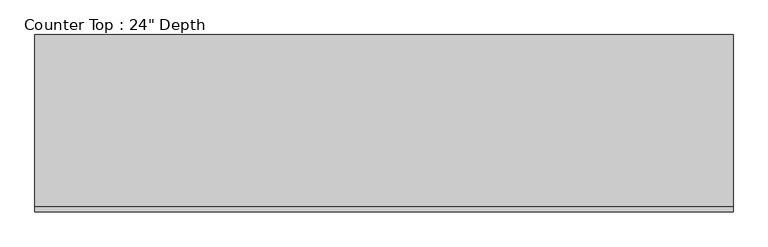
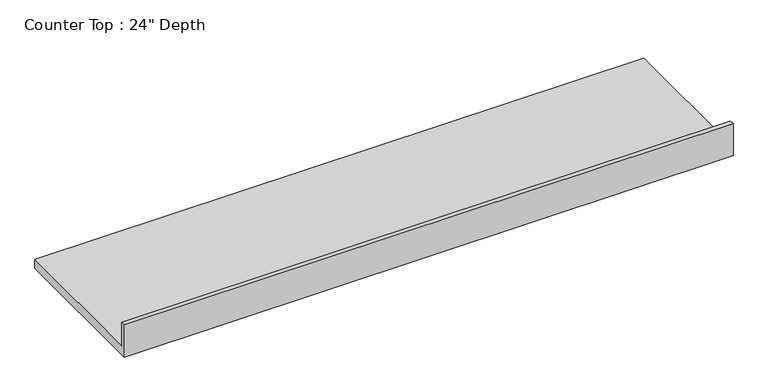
"""IFC4 building model written with IfcOpenShell, lengths in millimetres: furniture geometry."""

from ifc_helpers import new_model, si_unit, frame, origin, place, context, project, spatial, polyline, outline, extrude, source, transform, mapped, element, save


def furniture_58bfe37c(model_context):
    return source(origin(), model_context, "Body", "SweptSolid", [
        extrude(outline(polyline([(0.0, 1016.0), (19.05, 1016.0), (19.05, 914.4), (635.0, 914.4), (635.0, 876.3), (0.0, 876.3), (0.0, 1016.0)])), frame((-1200.4622951, 0.0, 0.0), z_axis=(1.0, 0.0, 0.0), x_axis=(0.0, 1.0, 0.0)), (0.0, 0.0, 1.0), 2497.1375),
    ])


if __name__ == "__main__":
    model = new_model("IFC4")
    model_context = context("Model", 3, world=origin())
    ifc_project = project(units=[si_unit("LENGTHUNIT", "METRE", prefix="MILLI")], contexts=[model_context])
    site = spatial("IfcSite", under=ifc_project)
    building = spatial("IfcBuilding", under=site)
    placement = place(None, origin())
    furniture_shape = furniture_58bfe37c(model_context)
    element("IfcFurniture", 1, ObjectType="Counter Top : 24\" Depth", at=placement, inside=building, context=model_context, shape_type="MappedRepresentation", body=[
        mapped(furniture_shape, transform((0.0, 0.0, 0.0), x_axis=(1.0, 0.0, 0.0), y_axis=(0.0, 1.0, 0.0), z_axis=(0.0, 0.0, 1.0))),
    ])
    save(model, "model.ifc")
